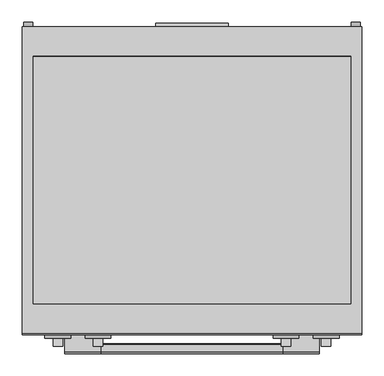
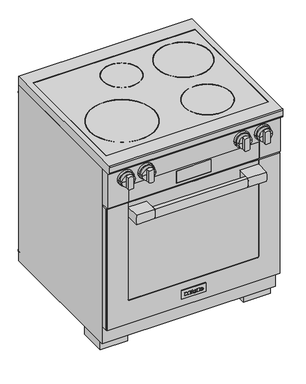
"""IFC4 building model written with IfcOpenShell, lengths in millimetres: proxy geometry, 11791520_USA_HR1622-3_EDST-CLST : 25162281_USA_11791520_HR1622-3_EDST-CLST."""

from ifc_helpers import new_model, si_unit, point, frame, frame_2d, origin, origin_with_axes, place, context, project, spatial, polyline, circle_curve, ellipse_curve, trimmed, segment, composite_curve, outline, extrude, faceted_brep, source, transform, mapped, element, save
from ifc_brep_helpers import plane_surface, cylinder_surface, revolved_surface, extruded_surface, advanced_brep


def specialty_equipment_27b714ed(model_context):
    return source(origin(), model_context, "Body", "SolidModel", [
        extrude(outline(polyline([(-351.0, -617.0), (351.0, -617.0), (351.0, -638.0), (-351.0, -638.0), (-351.0, -617.0)])), frame((0.0, 0.0, 133.0), z_axis=(0.0, 0.0, 1.0), x_axis=(1.0, 0.0, 0.0)), (0.0, 0.0, 1.0), 550.0),
        advanced_brep(
        [(287.0, -664.7, 688.0), (380.0, -664.7, 688.0), (380.0, -664.7, 127.0), (-380.0, -664.7, 127.0), (-380.0, -664.7, 688.0), (-287.0, -664.7, 688.0), (-287.0, -664.7, 687.0), (-379.0, -664.7, 687.0), (-379.0, -664.7, 128.0), (379.0, -664.7, 128.0), (379.0, -664.7, 687.0), (287.0, -664.7, 687.0), (-287.0, -670.0, 688.0), (-380.0, -670.0, 688.0), (-380.0, -670.0, 127.0), (380.0, -670.0, 127.0), (380.0, -670.0, 688.0), (287.0, -670.0, 688.0), (287.0, -670.0, 241.0), (281.0, -670.0, 235.0), (-281.0, -670.0, 235.0), (-287.0, -670.0, 241.0), (-287.0, -668.7, 241.0), (-287.0, -668.7, 687.0), (281.0, -668.7, 235.0), (-281.0, -668.7, 235.0), (287.0, -668.7, 687.0), (287.0, -668.7, 241.0), (379.0, -668.7, 687.0), (379.0, -668.7, 128.0), (-379.0, -668.7, 128.0), (-379.0, -668.7, 687.0)],
        [
            (0, 1),
            (1, 2),
            (2, 3),
            (3, 4),
            (4, 5),
            (5, 6),
            (6, 7),
            (7, 8),
            (8, 9),
            (9, 10),
            (10, 11),
            (11, 0),
            (12, 13),
            (13, 14),
            (14, 15),
            (15, 16),
            (16, 17),
            (17, 18),
            (18, 19, circle_curve(frame((281.0, -670.0, 241.0), z_axis=(0.0, 1.0, 0.0), x_axis=(-1.0, 0.0, 0.0)), 6.0)),
            (19, 20),
            (20, 21, circle_curve(frame((-281.0, -670.0, 241.0), z_axis=(0.0, 1.0, 0.0), x_axis=(-1.0, 0.0, 0.0)), 6.0)),
            (21, 12),
            (21, 22),
            (22, 23),
            (23, 6),
            (5, 12),
            (19, 24),
            (24, 25),
            (25, 20),
            (17, 0),
            (11, 26),
            (26, 27),
            (27, 18),
            (16, 1),
            (15, 2),
            (14, 3),
            (13, 4),
            (25, 22, circle_curve(frame((-281.0, -668.7, 241.0), z_axis=(0.0, 1.0, 0.0), x_axis=(-1.0, 0.0, 0.0)), 6.0)),
            (27, 24, circle_curve(frame((281.0, -668.7, 241.0), z_axis=(0.0, 1.0, 0.0), x_axis=(-1.0, 0.0, 0.0)), 6.0)),
            (28, 29),
            (29, 30),
            (30, 31),
            (31, 23),
            (26, 28),
            (28, 10),
            (9, 29),
            (8, 30),
            (7, 31),
        ],
        [
            plane_surface(frame((-287.0, -664.7, 241.0), z_axis=(0.0, 1.0, 0.0), x_axis=(0.0, 0.0, -1.0))),
            plane_surface(frame((-287.0, -670.0, 241.0), z_axis=(0.0, -1.0, 0.0), x_axis=(0.0, 0.0, 1.0))),
            plane_surface(frame((-287.0, -664.7, 688.0), z_axis=(1.0, 0.0, 0.0), x_axis=(0.0, -1.0, 0.0))),
            plane_surface(frame((-281.0, -664.7, 235.0), z_axis=(0.0, 0.0, 1.0), x_axis=(0.0, -1.0, 0.0))),
            plane_surface(frame((287.0, -664.7, 241.0), z_axis=(-1.0, 0.0, 0.0), x_axis=(0.0, -1.0, 0.0))),
            plane_surface(frame((287.0, -664.7, 688.0), z_axis=(0.0, 0.0, 1.0), x_axis=(0.0, -1.0, 0.0))),
            plane_surface(frame((380.0, -664.7, 688.0), z_axis=(1.0, 0.0, 0.0), x_axis=(0.0, -1.0, 0.0))),
            plane_surface(frame((380.0, -664.7, 127.0), z_axis=(0.0, 0.0, -1.0), x_axis=(0.0, -1.0, 0.0))),
            plane_surface(frame((-380.0, -664.7, 127.0), z_axis=(-1.0, 0.0, 0.0), x_axis=(0.0, -1.0, 0.0))),
            plane_surface(frame((-380.0, -664.7, 688.0), z_axis=(0.0, 0.0, 1.0), x_axis=(0.0, -1.0, 0.0))),
            revolved_surface(polyline([(-287.0, -670.0, 241.0), (-287.0, -668.7, 241.0)]), (-281.0, -670.0, 241.0), (0.0, -1.0, 0.0)),
            revolved_surface(polyline([(275.0, -670.0, 241.0), (275.0, -668.7, 241.0)]), (281.0, -670.0, 241.0), (0.0, -1.0, 0.0)),
            plane_surface(frame((379.0, -668.7, 687.0), z_axis=(0.0, 1.0, 0.0), x_axis=(0.0, 0.0, 1.0))),
            plane_surface(frame((379.0, -664.7, 687.0), z_axis=(-1.0, 0.0, 0.0), x_axis=(0.0, -1.0, 0.0))),
            plane_surface(frame((379.0, -664.7, 128.0), z_axis=(0.0, 0.0, 1.0), x_axis=(0.0, -1.0, 0.0))),
            plane_surface(frame((-379.0, -664.7, 128.0), z_axis=(1.0, 0.0, 0.0), x_axis=(0.0, -1.0, 0.0))),
            plane_surface(frame((-379.0, -664.7, 687.0), z_axis=(0.0, 0.0, -1.0), x_axis=(0.0, -1.0, 0.0))),
        ],
        [
            (0, [[1, 2, 3, 4, 5, 6, 7, 8, 9, 10, 11, 12]]),
            (1, [[13, 14, 15, 16, 17, 18, 19, 20, 21, 22]]),
            (2, [[-22, 23, 24, 25, -6, 26]]),
            (3, [[-20, 27, 28, 29]]),
            (4, [[-18, 30, -12, 31, 32, 33]]),
            (5, [[-1, -30, -17, 34]]),
            (6, [[-2, -34, -16, 35]]),
            (7, [[-3, -35, -15, 36]]),
            (8, [[-4, -36, -14, 37]]),
            (9, [[-5, -37, -13, -26]]),
            (10, [[-21, -29, 38, -23]]),
            (11, [[-19, -33, 39, -27]]),
            (12, [[40, 41, 42, 43, -24, -38, -28, -39, -32, 44]]),
            (13, [[-40, 45, -10, 46]]),
            (14, [[-41, -46, -9, 47]]),
            (15, [[-42, -47, -8, 48]]),
            (16, [[-45, -44, -31, -11]]),
            (16, [[-48, -7, -25, -43]]),
        ],
    ),
        extrude(outline(polyline([(-379.0, -664.7), (379.0, -664.7), (379.0, -668.7), (-379.0, -668.7), (-379.0, -664.7)])), frame((0.0, 0.0, 128.0), z_axis=(0.0, 0.0, 1.0), x_axis=(1.0, 0.0, 0.0)), (0.0, 0.0, 1.0), 559.0),
        extrude(outline(polyline([(-380.0, -638.0), (380.0, -638.0), (380.0, -664.7), (-380.0, -664.7), (-380.0, -638.0)])), frame((0.0, 0.0, 127.0), z_axis=(0.0, 0.0, 1.0), x_axis=(1.0, 0.0, 0.0)), (0.0, 0.0, 1.0), 561.0),
        extrude(outline(composite_curve([segment(polyline([(-668.7, 667.0), (-668.7, 624.0), (-731.0, 624.0)]), True, "CONTINUOUS"), segment(trimmed(circle_curve(frame_2d((-655.4583333, 645.5)), 78.5416667), [point((-731.0, 624.0))], [point((-731.0, 667.0))], False, "CARTESIAN"), True, "CONTINUOUS"), segment(polyline([(-731.0, 667.0), (-668.7, 667.0)]), True, "CONTINUOUS")], self_intersect=False)), frame((-286.0, 0.0, 0.0), z_axis=(1.0, 0.0, 0.0), x_axis=(0.0, 1.0, 0.0)), (0.0, 0.0, 1.0), 81.0),
        extrude(outline(composite_curve([segment(polyline([(-731.0, 667.0), (-668.7, 667.0), (-668.7, 624.0), (-731.0, 624.0)]), True, "CONTINUOUS"), segment(trimmed(circle_curve(frame_2d((-655.4583333, 645.5)), 78.5416667), [point((-731.0, 624.0))], [point((-731.0, 667.0))], False, "CARTESIAN"), True, "CONTINUOUS")], self_intersect=False)), frame((205.0, 0.0, 0.0), z_axis=(1.0, 0.0, 0.0), x_axis=(0.0, 1.0, 0.0)), (0.0, 0.0, 1.0), 81.0),
        extrude(outline(composite_curve([segment(polyline([(-714.0, 624.0), (-731.0, 624.0)]), True, "CONTINUOUS"), segment(trimmed(circle_curve(frame_2d((-655.4583333, 645.5)), 78.5416667), [point((-731.0, 624.0))], [point((-731.0, 667.0))], False, "CARTESIAN"), True, "CONTINUOUS"), segment(polyline([(-731.0, 667.0), (-714.0, 667.0)]), True, "CONTINUOUS"), segment(trimmed(circle_curve(frame_2d((-789.5416667, 645.5)), 78.5416667), [point((-714.0, 667.0))], [point((-714.0, 624.0))], False, "CARTESIAN"), True, "CONTINUOUS")], self_intersect=False)), frame((-205.0, 0.0, 0.0), z_axis=(1.0, 0.0, 0.0), x_axis=(0.0, 1.0, 0.0)), (0.0, 0.0, 1.0), 410.0),
        advanced_brep(
        [(381.0, 0.0, 902.0), (381.0, -688.0, 902.0), (381.0, -692.0, 898.0), (381.0, -692.0, 872.0), (381.0, -682.0, 862.0), (381.0, 0.0, 862.0), (-381.0, 0.0, 902.0), (-381.0, 0.0, 862.0), (-381.0, -682.0, 862.0), (-381.0, -692.0, 872.0), (-381.0, -692.0, 898.0), (-381.0, -688.0, 902.0), (-356.0, -66.0, 902.0), (356.0, -66.0, 902.0), (356.0, -622.0, 902.0), (-356.0, -622.0, 902.0), (356.0, -66.0, 896.4), (-356.0, -66.0, 896.4), (-356.0, -622.0, 896.4), (356.0, -622.0, 896.4)],
        [
            (0, 1),
            (1, 2, circle_curve(frame((381.0, -688.0, 898.0), z_axis=(1.0, 0.0, 0.0), x_axis=(0.0, 0.0, 1.0)), 4.0)),
            (2, 3),
            (3, 4, circle_curve(frame((381.0, -682.0, 872.0), z_axis=(1.0, 0.0, 0.0), x_axis=(0.0, 0.0, 1.0)), 10.0)),
            (4, 5),
            (5, 0),
            (6, 7),
            (7, 8),
            (8, 9, circle_curve(frame((-381.0, -682.0, 872.0), z_axis=(-1.0, 0.0, 0.0), x_axis=(0.0, 0.0, 1.0)), 10.0)),
            (9, 10),
            (10, 11, circle_curve(frame((-381.0, -688.0, 898.0), z_axis=(-1.0, 0.0, 0.0), x_axis=(0.0, 0.0, 1.0)), 4.0)),
            (11, 6),
            (0, 6),
            (11, 1),
            (12, 13),
            (13, 14),
            (14, 15),
            (15, 12),
            (10, 2),
            (9, 3),
            (8, 4),
            (7, 5),
            (16, 17),
            (17, 18),
            (18, 19),
            (19, 16),
            (16, 13),
            (12, 17),
            (15, 18),
            (14, 19),
        ],
        [
            plane_surface(frame((381.0, -688.0, 902.0), z_axis=(1.0, 0.0, 0.0), x_axis=(0.0, -1.0, 0.0))),
            plane_surface(frame((-381.0, -688.0, 902.0), z_axis=(-1.0, 0.0, 0.0), x_axis=(0.0, 1.0, 0.0))),
            plane_surface(frame((381.0, 0.0, 902.0), z_axis=(0.0, 0.0, 1.0), x_axis=(-1.0, 0.0, 0.0))),
            cylinder_surface(frame((-381.0, -688.0, 898.0), z_axis=(1.0, 0.0, 0.0), x_axis=(0.0, 0.0, 1.0)), 4.0),
            plane_surface(frame((381.0, -692.0, 898.0), z_axis=(0.0, -1.0, 0.0), x_axis=(-1.0, 0.0, 0.0))),
            cylinder_surface(frame((-381.0, -682.0, 872.0), z_axis=(1.0, 0.0, 0.0), x_axis=(0.0, 0.0, 1.0)), 10.0),
            plane_surface(frame((381.0, -682.0, 862.0), z_axis=(0.0, 0.0, -1.0), x_axis=(-1.0, 0.0, 0.0))),
            plane_surface(frame((381.0, 0.0, 862.0), z_axis=(0.0, 1.0, 0.0), x_axis=(-1.0, 0.0, 0.0))),
            plane_surface(frame((-356.0, -66.0, 896.4), z_axis=(0.0, 0.0, 1.0), x_axis=(1.0, 0.0, 0.0))),
            plane_surface(frame((356.0, -66.0, 902.0), z_axis=(0.0, -1.0, 0.0), x_axis=(0.0, 0.0, -1.0))),
            plane_surface(frame((-356.0, -66.0, 902.0), z_axis=(1.0, 0.0, 0.0), x_axis=(0.0, 0.0, -1.0))),
            plane_surface(frame((-356.0, -622.0, 902.0), z_axis=(0.0, 1.0, 0.0), x_axis=(0.0, 0.0, -1.0))),
            plane_surface(frame((356.0, -622.0, 902.0), z_axis=(-1.0, 0.0, 0.0), x_axis=(0.0, 0.0, -1.0))),
        ],
        [
            (0, [[1, 2, 3, 4, 5, 6]]),
            (1, [[7, 8, 9, 10, 11, 12]]),
            (2, [[-1, 13, -12, 14], [15, 16, 17, 18]]),
            (3, [[-2, -14, -11, 19]]),
            (4, [[-3, -19, -10, 20]]),
            (5, [[-4, -20, -9, 21]]),
            (6, [[-5, -21, -8, 22]]),
            (7, [[-6, -22, -7, -13]]),
            (8, [[23, 24, 25, 26]]),
            (9, [[-23, 27, -15, 28]]),
            (10, [[-24, -28, -18, 29]]),
            (11, [[-25, -29, -17, 30]]),
            (12, [[-26, -30, -16, -27]]),
        ],
    ),
        extrude(outline(polyline([(356.0, -66.0), (356.0, -622.0), (-356.0, -622.0), (-356.0, -66.0), (356.0, -66.0)])), frame((0.0, 0.0, 896.4), z_axis=(0.0, 0.0, 1.0), x_axis=(1.0, 0.0, 0.0)), (0.0, 0.0, 1.0), 4.0),
        extrude(outline(polyline([(356.0, -67.0), (356.0, -633.0), (-356.0, -633.0), (-356.0, -67.0), (356.0, -67.0)])), frame((0.0, 0.0, 870.0), z_axis=(0.0, 0.0, 1.0), x_axis=(1.0, 0.0, 0.0)), (0.0, 0.0, 1.0), 31.0),
        extrude(outline(composite_curve([segment(trimmed(circle_curve(frame_2d((-38.0, -189.0)), 82.0), [point((44.0, -189.0))], [point((-120.0, -189.0))], False, "CARTESIAN"), True, "CONTINUOUS"), segment(trimmed(circle_curve(frame_2d((-38.0, -189.0)), 82.0), [point((-120.0, -189.0))], [point((44.0, -189.0))], False, "CARTESIAN"), True, "CONTINUOUS")], self_intersect=False), holes=[composite_curve([segment(trimmed(circle_curve(frame_2d((-38.0, -189.0)), 80.0), [point((42.0, -189.0))], [point((-118.0, -189.0))], True, "CARTESIAN"), True, "CONTINUOUS"), segment(trimmed(circle_curve(frame_2d((-38.0, -189.0)), 80.0), [point((-118.0, -189.0))], [point((42.0, -189.0))], True, "CARTESIAN"), True, "CONTINUOUS")], self_intersect=False)]), frame((0.0, 0.0, 900.4), z_axis=(0.0, 0.0, 1.0), x_axis=(1.0, 0.0, 0.0)), (0.0, 0.0, 1.0), 1.0),
        extrude(outline(composite_curve([segment(trimmed(circle_curve(frame_2d((217.0, -218.0)), 117.0), [point((334.0, -218.0))], [point((100.0, -218.0))], False, "CARTESIAN"), True, "CONTINUOUS"), segment(trimmed(circle_curve(frame_2d((217.0, -218.0)), 117.0), [point((100.0, -218.0))], [point((334.0, -218.0))], False, "CARTESIAN"), True, "CONTINUOUS")], self_intersect=False), holes=[composite_curve([segment(trimmed(circle_curve(frame_2d((217.0, -218.0)), 115.0), [point((332.0, -218.0))], [point((102.0, -218.0))], True, "CARTESIAN"), True, "CONTINUOUS"), segment(trimmed(circle_curve(frame_2d((217.0, -218.0)), 115.0), [point((102.0, -218.0))], [point((332.0, -218.0))], True, "CARTESIAN"), True, "CONTINUOUS")], self_intersect=False)]), frame((0.0, 0.0, 900.4), z_axis=(0.0, 0.0, 1.0), x_axis=(1.0, 0.0, 0.0)), (0.0, 0.0, 1.0), 1.0),
        extrude(outline(composite_curve([segment(trimmed(circle_curve(frame_2d((165.0, -492.0)), 102.0), [point((267.0, -492.0))], [point((63.0, -492.0))], False, "CARTESIAN"), True, "CONTINUOUS"), segment(trimmed(circle_curve(frame_2d((165.0, -492.0)), 102.0), [point((63.0, -492.0))], [point((267.0, -492.0))], False, "CARTESIAN"), True, "CONTINUOUS")], self_intersect=False), holes=[composite_curve([segment(trimmed(circle_curve(frame_2d((165.0, -492.0)), 100.0), [point((265.0, -492.0))], [point((65.0, -492.0))], True, "CARTESIAN"), True, "CONTINUOUS"), segment(trimmed(circle_curve(frame_2d((165.0, -492.0)), 100.0), [point((65.0, -492.0))], [point((265.0, -492.0))], True, "CARTESIAN"), True, "CONTINUOUS")], self_intersect=False)]), frame((0.0, 0.0, 900.4), z_axis=(0.0, 0.0, 1.0), x_axis=(1.0, 0.0, 0.0)), (0.0, 0.0, 1.0), 1.0),
        extrude(outline(composite_curve([segment(trimmed(circle_curve(frame_2d((-188.0, -452.0)), 142.0), [point((-46.0, -452.0))], [point((-330.0, -452.0))], False, "CARTESIAN"), True, "CONTINUOUS"), segment(trimmed(circle_curve(frame_2d((-188.0, -452.0)), 142.0), [point((-330.0, -452.0))], [point((-46.0, -452.0))], False, "CARTESIAN"), True, "CONTINUOUS")], self_intersect=False), holes=[composite_curve([segment(trimmed(circle_curve(frame_2d((-188.0, -452.0)), 140.0), [point((-48.0, -452.0))], [point((-328.0, -452.0))], True, "CARTESIAN"), True, "CONTINUOUS"), segment(trimmed(circle_curve(frame_2d((-188.0, -452.0)), 140.0), [point((-328.0, -452.0))], [point((-48.0, -452.0))], True, "CARTESIAN"), True, "CONTINUOUS")], self_intersect=False)]), frame((0.0, 0.0, 900.4), z_axis=(0.0, 0.0, 1.0), x_axis=(1.0, 0.0, 0.0)), (0.0, 0.0, 1.0), 1.0),
        advanced_brep(
        [(301.0, -683.0, 813.0), (330.0, -683.0, 813.0), (272.0, -683.0, 813.0), (272.0, -699.0, 813.0), (330.0, -699.0, 813.0), (301.0, -699.0, 813.0)],
        [
            (0, 1),
            (1, 2, circle_curve(frame((301.0, -683.0, 813.0), z_axis=(0.0, 1.0, 0.0), x_axis=(1.0, 0.0, 0.0)), 29.0)),
            (2, 0),
            (2, 1, circle_curve(frame((301.0, -683.0, 813.0), z_axis=(0.0, 1.0, 0.0), x_axis=(1.0, 0.0, 0.0)), 29.0)),
            (3, 4, circle_curve(frame((301.0, -699.0, 813.0), z_axis=(0.0, -1.0, 0.0), x_axis=(1.0, 0.0, 0.0)), 29.0)),
            (4, 5),
            (5, 3),
            (4, 3, circle_curve(frame((301.0, -699.0, 813.0), z_axis=(0.0, -1.0, 0.0), x_axis=(1.0, 0.0, 0.0)), 29.0)),
            (1, 4),
            (3, 2),
        ],
        [
            plane_surface(frame((301.0, -683.0, 813.0), z_axis=(0.0, 1.0, 0.0), x_axis=(1.0, 0.0, 0.0))),
            plane_surface(frame((301.0, -699.0, 813.0), z_axis=(0.0, -1.0, 0.0), x_axis=(1.0, 0.0, 0.0))),
            cylinder_surface(frame((301.0, 751.3738435, 813.0), z_axis=(0.0, 1.0, 0.0), x_axis=(1.0, 0.0, 0.0)), 29.0),
        ],
        [
            (0, [[1, 2, 3]]),
            (0, [[-3, 4, -1]]),
            (1, [[5, 6, 7]]),
            (1, [[8, -7, -6]]),
            (2, [[-2, 9, -5, 10]]),
            (2, [[-4, -10, -8, -9]]),
        ],
    ),
        extrude(outline(composite_curve([segment(polyline([(786.1671843, 312.0), (839.8328157, 312.0)]), True, "CONTINUOUS"), segment(trimmed(circle_curve(frame_2d((813.0, 301.0)), 29.0), [point((839.8328157, 312.0))], [point((839.8328157, 290.0))], False, "CARTESIAN"), True, "CONTINUOUS"), segment(polyline([(839.8328157, 290.0), (786.1671843, 290.0)]), True, "CONTINUOUS"), segment(trimmed(circle_curve(frame_2d((813.0, 301.0)), 29.0), [point((786.1671843, 290.0))], [point((786.1671843, 312.0))], False, "CARTESIAN"), True, "CONTINUOUS")], self_intersect=False)), frame((0.0, -717.0, 0.0), z_axis=(0.0, 1.0, 0.0), x_axis=(0.0, 0.0, 1.0)), (0.0, 0.0, 1.0), 18.0),
        advanced_brep(
        [(211.0, -683.0, 813.0), (240.0, -683.0, 813.0), (182.0, -683.0, 813.0), (182.0, -699.0, 813.0), (240.0, -699.0, 813.0), (211.0, -699.0, 813.0)],
        [
            (0, 1),
            (1, 2, circle_curve(frame((211.0, -683.0, 813.0), z_axis=(0.0, 1.0, 0.0), x_axis=(1.0, 0.0, 0.0)), 29.0)),
            (2, 0),
            (2, 1, circle_curve(frame((211.0, -683.0, 813.0), z_axis=(0.0, 1.0, 0.0), x_axis=(1.0, 0.0, 0.0)), 29.0)),
            (3, 4, circle_curve(frame((211.0, -699.0, 813.0), z_axis=(0.0, -1.0, 0.0), x_axis=(1.0, 0.0, 0.0)), 29.0)),
            (4, 5),
            (5, 3),
            (4, 3, circle_curve(frame((211.0, -699.0, 813.0), z_axis=(0.0, -1.0, 0.0), x_axis=(1.0, 0.0, 0.0)), 29.0)),
            (1, 4),
            (3, 2),
        ],
        [
            plane_surface(frame((211.0, -683.0, 813.0), z_axis=(0.0, 1.0, 0.0), x_axis=(1.0, 0.0, 0.0))),
            plane_surface(frame((211.0, -699.0, 813.0), z_axis=(0.0, -1.0, 0.0), x_axis=(1.0, 0.0, 0.0))),
            cylinder_surface(frame((211.0, 751.3738435, 813.0), z_axis=(0.0, 1.0, 0.0), x_axis=(1.0, 0.0, 0.0)), 29.0),
        ],
        [
            (0, [[1, 2, 3]]),
            (0, [[-3, 4, -1]]),
            (1, [[5, 6, 7]]),
            (1, [[8, -7, -6]]),
            (2, [[-2, 9, -5, 10]]),
            (2, [[-4, -10, -8, -9]]),
        ],
    ),
        advanced_brep(
        [(-211.0, -683.0, 813.0), (-182.0, -683.0, 813.0), (-240.0, -683.0, 813.0), (-240.0, -699.0, 813.0), (-182.0, -699.0, 813.0), (-211.0, -699.0, 813.0)],
        [
            (0, 1),
            (1, 2, circle_curve(frame((-211.0, -683.0, 813.0), z_axis=(0.0, 1.0, 0.0), x_axis=(1.0, 0.0, 0.0)), 29.0)),
            (2, 0),
            (2, 1, circle_curve(frame((-211.0, -683.0, 813.0), z_axis=(0.0, 1.0, 0.0), x_axis=(1.0, 0.0, 0.0)), 29.0)),
            (3, 4, circle_curve(frame((-211.0, -699.0, 813.0), z_axis=(0.0, -1.0, 0.0), x_axis=(1.0, 0.0, 0.0)), 29.0)),
            (4, 5),
            (5, 3),
            (4, 3, circle_curve(frame((-211.0, -699.0, 813.0), z_axis=(0.0, -1.0, 0.0), x_axis=(1.0, 0.0, 0.0)), 29.0)),
            (1, 4),
            (3, 2),
        ],
        [
            plane_surface(frame((-211.0, -683.0, 813.0), z_axis=(0.0, 1.0, 0.0), x_axis=(1.0, 0.0, 0.0))),
            plane_surface(frame((-211.0, -699.0, 813.0), z_axis=(0.0, -1.0, 0.0), x_axis=(1.0, 0.0, 0.0))),
            cylinder_surface(frame((-211.0, 751.3738435, 813.0), z_axis=(0.0, 1.0, 0.0), x_axis=(1.0, 0.0, 0.0)), 29.0),
        ],
        [
            (0, [[1, 2, 3]]),
            (0, [[-3, 4, -1]]),
            (1, [[5, 6, 7]]),
            (1, [[8, -7, -6]]),
            (2, [[-2, 9, -5, 10]]),
            (2, [[-4, -10, -8, -9]]),
        ],
    ),
        advanced_brep(
        [(-301.0, -683.0, 813.0), (-272.0, -683.0, 813.0), (-330.0, -683.0, 813.0), (-330.0, -699.0, 813.0), (-272.0, -699.0, 813.0), (-301.0, -699.0, 813.0)],
        [
            (0, 1),
            (1, 2, circle_curve(frame((-301.0, -683.0, 813.0), z_axis=(0.0, 1.0, 0.0), x_axis=(1.0, 0.0, 0.0)), 29.0)),
            (2, 0),
            (2, 1, circle_curve(frame((-301.0, -683.0, 813.0), z_axis=(0.0, 1.0, 0.0), x_axis=(1.0, 0.0, 0.0)), 29.0)),
            (3, 4, circle_curve(frame((-301.0, -699.0, 813.0), z_axis=(0.0, -1.0, 0.0), x_axis=(1.0, 0.0, 0.0)), 29.0)),
            (4, 5),
            (5, 3),
            (4, 3, circle_curve(frame((-301.0, -699.0, 813.0), z_axis=(0.0, -1.0, 0.0), x_axis=(1.0, 0.0, 0.0)), 29.0)),
            (1, 4),
            (3, 2),
        ],
        [
            plane_surface(frame((-301.0, -683.0, 813.0), z_axis=(0.0, 1.0, 0.0), x_axis=(1.0, 0.0, 0.0))),
            plane_surface(frame((-301.0, -699.0, 813.0), z_axis=(0.0, -1.0, 0.0), x_axis=(1.0, 0.0, 0.0))),
            cylinder_surface(frame((-301.0, 751.3738435, 813.0), z_axis=(0.0, 1.0, 0.0), x_axis=(1.0, 0.0, 0.0)), 29.0),
        ],
        [
            (0, [[1, 2, 3]]),
            (0, [[-3, 4, -1]]),
            (1, [[5, 6, 7]]),
            (1, [[8, -7, -6]]),
            (2, [[-2, 9, -5, 10]]),
            (2, [[-4, -10, -8, -9]]),
        ],
    ),
        extrude(outline(composite_curve([segment(trimmed(circle_curve(frame_2d((813.0, 211.0)), 29.0), [point((786.1671843, 200.0))], [point((786.1671843, 222.0))], False, "CARTESIAN"), True, "CONTINUOUS"), segment(polyline([(786.1671843, 222.0), (839.8328157, 222.0)]), True, "CONTINUOUS"), segment(trimmed(circle_curve(frame_2d((813.0, 211.0)), 29.0), [point((839.8328157, 222.0))], [point((839.8328157, 200.0))], False, "CARTESIAN"), True, "CONTINUOUS"), segment(polyline([(839.8328157, 200.0), (786.1671843, 200.0)]), True, "CONTINUOUS")], self_intersect=False)), frame((0.0, -717.0, 0.0), z_axis=(0.0, 1.0, 0.0), x_axis=(0.0, 0.0, 1.0)), (0.0, 0.0, 1.0), 18.0),
        extrude(outline(composite_curve([segment(polyline([(839.8328157, -222.0), (786.1671843, -222.0)]), True, "CONTINUOUS"), segment(trimmed(circle_curve(frame_2d((813.0, -211.0)), 29.0), [point((786.1671843, -222.0))], [point((786.1671843, -200.0))], False, "CARTESIAN"), True, "CONTINUOUS"), segment(polyline([(786.1671843, -200.0), (839.8328157, -200.0)]), True, "CONTINUOUS"), segment(trimmed(circle_curve(frame_2d((813.0, -211.0)), 29.0), [point((839.8328157, -200.0))], [point((839.8328157, -222.0))], False, "CARTESIAN"), True, "CONTINUOUS")], self_intersect=False)), frame((0.0, -717.0, 0.0), z_axis=(0.0, 1.0, 0.0), x_axis=(0.0, 0.0, 1.0)), (0.0, 0.0, 1.0), 18.0),
        extrude(outline(composite_curve([segment(polyline([(839.8328157, -312.0), (786.1671843, -312.0)]), True, "CONTINUOUS"), segment(trimmed(circle_curve(frame_2d((813.0, -301.0)), 29.0), [point((786.1671843, -312.0))], [point((786.1671843, -290.0))], False, "CARTESIAN"), True, "CONTINUOUS"), segment(polyline([(786.1671843, -290.0), (839.8328157, -290.0)]), True, "CONTINUOUS"), segment(trimmed(circle_curve(frame_2d((813.0, -301.0)), 29.0), [point((839.8328157, -290.0))], [point((839.8328157, -312.0))], False, "CARTESIAN"), True, "CONTINUOUS")], self_intersect=False)), frame((0.0, -717.0, 0.0), z_axis=(0.0, 1.0, 0.0), x_axis=(0.0, 0.0, 1.0)), (0.0, 0.0, 1.0), 18.0),
        advanced_brep(
        [(267.7632698, -683.0, 813.0), (334.2367302, -683.0, 813.0), (301.0, -683.0, 813.0), (266.0, -673.0, 813.0), (336.0, -673.0, 813.0), (301.0, -673.0, 813.0)],
        [
            (0, 1, circle_curve(frame((301.0, -683.0, 813.0), z_axis=(0.0, -1.0, 0.0), x_axis=(1.0, 0.0, 0.0)), 33.2367302)),
            (1, 2),
            (2, 0),
            (1, 0, circle_curve(frame((301.0, -683.0, 813.0), z_axis=(0.0, -1.0, 0.0), x_axis=(1.0, 0.0, 0.0)), 33.2367302)),
            (3, 4, circle_curve(frame((301.0, -673.0, 813.0), z_axis=(0.0, -1.0, 0.0), x_axis=(1.0, 0.0, 0.0)), 35.0)),
            (4, 1),
            (0, 3),
            (4, 3, circle_curve(frame((301.0, -673.0, 813.0), z_axis=(0.0, -1.0, 0.0), x_axis=(1.0, 0.0, 0.0)), 35.0)),
            (5, 4),
            (3, 5),
        ],
        [
            plane_surface(frame((301.0, -683.0, 813.0), z_axis=(0.0, -1.0, 0.0), x_axis=(1.0, 0.0, 0.0))),
            revolved_surface(polyline([(334.2367302, -683.0, 813.0), (336.0, -673.0, 813.0)]), (301.0, 751.3738435, 813.0), (0.0, 1.0, 0.0)),
            plane_surface(frame((301.0, -673.0, 813.0), z_axis=(0.0, 1.0, 0.0), x_axis=(1.0, 0.0, 0.0))),
        ],
        [
            (0, [[1, 2, 3]]),
            (0, [[4, -3, -2]]),
            (1, [[5, 6, -1, 7]]),
            (1, [[8, -7, -4, -6]]),
            (2, [[9, -5, 10]]),
            (2, [[-10, -8, -9]]),
        ],
    ),
        advanced_brep(
        [(177.7632698, -683.0, 813.0), (244.2367302, -683.0, 813.0), (211.0, -683.0, 813.0), (176.0, -673.0, 813.0), (246.0, -673.0, 813.0), (211.0, -673.0, 813.0)],
        [
            (0, 1, circle_curve(frame((211.0, -683.0, 813.0), z_axis=(0.0, -1.0, 0.0), x_axis=(1.0, 0.0, 0.0)), 33.2367302)),
            (1, 2),
            (2, 0),
            (1, 0, circle_curve(frame((211.0, -683.0, 813.0), z_axis=(0.0, -1.0, 0.0), x_axis=(1.0, 0.0, 0.0)), 33.2367302)),
            (3, 4, circle_curve(frame((211.0, -673.0, 813.0), z_axis=(0.0, -1.0, 0.0), x_axis=(1.0, 0.0, 0.0)), 35.0)),
            (4, 1),
            (0, 3),
            (4, 3, circle_curve(frame((211.0, -673.0, 813.0), z_axis=(0.0, -1.0, 0.0), x_axis=(1.0, 0.0, 0.0)), 35.0)),
            (5, 4),
            (3, 5),
        ],
        [
            plane_surface(frame((211.0, -683.0, 813.0), z_axis=(0.0, -1.0, 0.0), x_axis=(1.0, 0.0, 0.0))),
            revolved_surface(polyline([(244.2367302, -683.0, 813.0), (246.0, -673.0, 813.0)]), (211.0, 751.3738435, 813.0), (0.0, 1.0, 0.0)),
            plane_surface(frame((211.0, -673.0, 813.0), z_axis=(0.0, 1.0, 0.0), x_axis=(1.0, 0.0, 0.0))),
        ],
        [
            (0, [[1, 2, 3]]),
            (0, [[4, -3, -2]]),
            (1, [[5, 6, -1, 7]]),
            (1, [[8, -7, -4, -6]]),
            (2, [[9, -5, 10]]),
            (2, [[-10, -8, -9]]),
        ],
    ),
        advanced_brep(
        [(-244.2367302, -683.0, 813.0), (-177.7632698, -683.0, 813.0), (-211.0, -683.0, 813.0), (-246.0, -673.0, 813.0), (-176.0, -673.0, 813.0), (-211.0, -673.0, 813.0)],
        [
            (0, 1, circle_curve(frame((-211.0, -683.0, 813.0), z_axis=(0.0, -1.0, 0.0), x_axis=(1.0, 0.0, 0.0)), 33.2367302)),
            (1, 2),
            (2, 0),
            (1, 0, circle_curve(frame((-211.0, -683.0, 813.0), z_axis=(0.0, -1.0, 0.0), x_axis=(1.0, 0.0, 0.0)), 33.2367302)),
            (3, 4, circle_curve(frame((-211.0, -673.0, 813.0), z_axis=(0.0, -1.0, 0.0), x_axis=(1.0, 0.0, 0.0)), 35.0)),
            (4, 1),
            (0, 3),
            (4, 3, circle_curve(frame((-211.0, -673.0, 813.0), z_axis=(0.0, -1.0, 0.0), x_axis=(1.0, 0.0, 0.0)), 35.0)),
            (5, 4),
            (3, 5),
        ],
        [
            plane_surface(frame((-211.0, -683.0, 813.0), z_axis=(0.0, -1.0, 0.0), x_axis=(1.0, 0.0, 0.0))),
            revolved_surface(polyline([(-177.7632698, -683.0, 813.0), (-176.0, -673.0, 813.0)]), (-211.0, 751.3738435, 813.0), (0.0, 1.0, 0.0)),
            plane_surface(frame((-211.0, -673.0, 813.0), z_axis=(0.0, 1.0, 0.0), x_axis=(1.0, 0.0, 0.0))),
        ],
        [
            (0, [[1, 2, 3]]),
            (0, [[4, -3, -2]]),
            (1, [[5, 6, -1, 7]]),
            (1, [[8, -7, -4, -6]]),
            (2, [[9, -5, 10]]),
            (2, [[-10, -8, -9]]),
        ],
    ),
        advanced_brep(
        [(-334.2367302, -683.0, 813.0), (-267.7632698, -683.0, 813.0), (-301.0, -683.0, 813.0), (-336.0, -673.0, 813.0), (-266.0, -673.0, 813.0), (-301.0, -673.0, 813.0)],
        [
            (0, 1, circle_curve(frame((-301.0, -683.0, 813.0), z_axis=(0.0, -1.0, 0.0), x_axis=(1.0, 0.0, 0.0)), 33.2367302)),
            (1, 2),
            (2, 0),
            (1, 0, circle_curve(frame((-301.0, -683.0, 813.0), z_axis=(0.0, -1.0, 0.0), x_axis=(1.0, 0.0, 0.0)), 33.2367302)),
            (3, 4, circle_curve(frame((-301.0, -673.0, 813.0), z_axis=(0.0, -1.0, 0.0), x_axis=(1.0, 0.0, 0.0)), 35.0)),
            (4, 1),
            (0, 3),
            (4, 3, circle_curve(frame((-301.0, -673.0, 813.0), z_axis=(0.0, -1.0, 0.0), x_axis=(1.0, 0.0, 0.0)), 35.0)),
            (5, 4),
            (3, 5),
        ],
        [
            plane_surface(frame((-301.0, -683.0, 813.0), z_axis=(0.0, -1.0, 0.0), x_axis=(1.0, 0.0, 0.0))),
            revolved_surface(polyline([(-267.7632698, -683.0, 813.0), (-266.0, -673.0, 813.0)]), (-301.0, 751.3738435, 813.0), (0.0, 1.0, 0.0)),
            plane_surface(frame((-301.0, -673.0, 813.0), z_axis=(0.0, 1.0, 0.0), x_axis=(1.0, 0.0, 0.0))),
        ],
        [
            (0, [[1, 2, 3]]),
            (0, [[4, -3, -2]]),
            (1, [[5, 6, -1, 7]]),
            (1, [[8, -7, -4, -6]]),
            (2, [[9, -5, 10]]),
            (2, [[-10, -8, -9]]),
        ],
    ),
        faceted_brep([(380.0, -673.0, 862.0), (-380.0, -673.0, 862.0), (-380.0, -673.0, 695.0), (-287.0, -673.0, 695.0), (-287.0, -673.0, 772.0), (287.0, -673.0, 772.0), (287.0, -673.0, 695.0), (380.0, -673.0, 695.0), (380.0, -633.0, 862.0), (380.0, -633.0, 695.0), (-380.0, -633.0, 695.0), (-380.0, -633.0, 862.0), (287.0, -666.7, 695.0), (-287.0, -666.7, 695.0), (287.0, -666.7, 772.0), (-287.0, -666.7, 772.0)], [[[0, 1, 2, 3, 4, 5, 6, 7]], [[8, 9, 10, 11]], [[0, 7, 9, 8]], [[10, 9, 7, 6, 12, 13, 3, 2]], [[2, 1, 11, 10]], [[1, 0, 8, 11]], [[14, 15, 13, 12]], [[14, 12, 6, 5]], [[13, 15, 4, 3]], [[15, 14, 5, 4]]]),
        extrude(outline(polyline([(772.0, 287.0), (772.0, -287.0), (695.0, -287.0), (695.0, 287.0), (772.0, 287.0)]), holes=[polyline([(763.0, 76.5), (707.0, 76.5), (707.0, -76.5), (763.0, -76.5), (763.0, 76.5)])]), frame((0.0, -671.7, 0.0), z_axis=(0.0, 1.0, 0.0), x_axis=(0.0, 0.0, 1.0)), (0.0, 0.0, 1.0), 5.0),
        extrude(outline(polyline([(76.5, -671.7), (-76.5, -671.7), (-76.5, -670.7), (76.5, -670.7), (76.5, -671.7)])), frame((0.0, 0.0, 707.0), z_axis=(0.0, 0.0, 1.0), x_axis=(1.0, 0.0, 0.0)), (0.0, 0.0, 1.0), 56.0),
        extrude(outline(polyline([(-254.0, -489.0), (-254.0, -609.0), (-374.0, -609.0), (-374.0, -489.0), (-254.0, -489.0)])), origin_with_axes(), (0.0, 0.0, 1.0), 45.0),
        extrude(outline(polyline([(374.0, -489.0), (374.0, -609.0), (254.0, -609.0), (254.0, -489.0), (374.0, -489.0)])), origin_with_axes(), (0.0, 0.0, 1.0), 45.0),
        extrude(outline(composite_curve([segment(trimmed(circle_curve(frame_2d((-152.0, 39.6862697)), 39.6862697), [point((-112.6710759, 45.0))], [point((-191.3289241, 45.0))], False, "CARTESIAN"), True, "CONTINUOUS"), segment(polyline([(-191.3289241, 45.0), (-112.6710759, 45.0)]), True, "CONTINUOUS")], self_intersect=False)), frame((-234.0, 0.0, 0.0), z_axis=(1.0, 0.0, 0.0), x_axis=(0.0, 1.0, 0.0)), (0.0, 0.0, 1.0), 28.0),
        extrude(outline(composite_curve([segment(trimmed(circle_curve(frame_2d((748.0, -299.0)), 7.5), [point((748.0, -291.5))], [point((748.0, -306.5))], False, "CARTESIAN"), True, "CONTINUOUS"), segment(trimmed(circle_curve(frame_2d((748.0, -299.0)), 7.5), [point((748.0, -306.5))], [point((748.0, -291.5))], False, "CARTESIAN"), True, "CONTINUOUS")], self_intersect=False)), frame((0.0, -66.0, 0.0), z_axis=(0.0, 1.0, 0.0), x_axis=(0.0, 0.0, 1.0)), (0.0, 0.0, 1.0), 30.0),
        extrude(outline(polyline([(743.0, -288.4829639), (753.0509015, -288.4829639), (753.0509015, -289.7409127), (748.1386151, -289.7409127), (753.0475587, -294.8904554), (753.0475587, -296.6455728), (748.9164775, -292.3179994), (743.0, -296.8019347), (743.0, -295.2701694), (748.0664133, -291.4304743), (746.4465471, -289.7392234), (743.0, -289.7392234), (743.0, -288.4829639)])), frame((0.0, -36.0, 0.0), z_axis=(0.0, 1.0, 0.0), x_axis=(0.0, 0.0, 1.0)), (0.0, 0.0, 1.0), 1.0),
        extrude(outline(polyline([(742.9900117, -299.5376107), (753.0405487, -296.8032463), (753.0405487, -298.1010309), (744.3952189, -300.1941056), (753.0411296, -302.6946617), (753.0411296, -304.5615338), (744.4117226, -307.0845612), (753.0419182, -309.165026), (753.0419182, -310.4626989), (742.9984871, -307.7244126), (742.9984871, -306.3735976), (751.8308623, -303.6286268), (742.9900117, -301.0716905), (742.9900117, -299.5376107)])), frame((0.0, -36.0, 0.0), z_axis=(0.0, 1.0, 0.0), x_axis=(0.0, 0.0, 1.0)), (0.0, 0.0, 1.0), 1.0),
        extrude(outline(composite_curve([segment(trimmed(circle_curve(frame_2d((225.0, -35.0)), 7.5), [point((225.0, -42.5))], [point((225.0, -27.5))], False, "CARTESIAN"), True, "CONTINUOUS"), segment(trimmed(circle_curve(frame_2d((225.0, -35.0)), 7.5), [point((225.0, -27.5))], [point((225.0, -42.5))], False, "CARTESIAN"), True, "CONTINUOUS")], self_intersect=False)), frame((0.0, 0.0, 102.0), z_axis=(0.0, 0.0, 1.0), x_axis=(1.0, 0.0, 0.0)), (0.0, 0.0, 1.0), 30.0),
        extrude(outline(polyline([(232.4261097, -39.2846028), (225.1553153, -39.2846028), (225.1553153, -38.0259878), (231.1324687, -38.0259878), (231.1324687, -35.0398896), (225.4699511, -35.0398896), (225.4699511, -33.7868997), (231.1324687, -33.7868997), (231.1324687, -30.484481), (225.0234692, -30.484481), (225.0234692, -29.223126), (232.4261097, -29.223126), (232.4261097, -39.2846028)])), frame((0.0, 0.0, 101.0), z_axis=(0.0, 0.0, 1.0), x_axis=(1.0, 0.0, 0.0)), (0.0, 0.0, 1.0), 1.0),
        extrude(outline(polyline([(223.0939455, -39.2781045), (216.9083542, -39.2781045), (216.9083542, -38.0259878), (221.9083542, -38.0259878), (221.9083542, -29.223126), (223.0939455, -29.223126), (223.0939455, -39.2781045)])), frame((0.0, 0.0, 101.0), z_axis=(0.0, 0.0, 1.0), x_axis=(1.0, 0.0, 0.0)), (0.0, 0.0, 1.0), 1.0),
        faceted_brep([(356.0, -608.0, 695.0), (-356.0, -608.0, 695.0), (-356.0, -608.0, 128.0), (356.0, -608.0, 128.0), (312.0, -608.0, 608.0), (312.0, -608.0, 185.0), (-312.0, -608.0, 185.0), (-312.0, -608.0, 608.0), (356.0, -633.0, 128.0), (356.0, -633.0, 695.0), (-356.0, -633.0, 128.0), (-356.0, -633.0, 695.0), (-381.0, 0.0, 862.0), (-381.0, -633.0, 862.0), (381.0, -633.0, 862.0), (381.0, 0.0, 862.0), (356.0, 0.0, 862.0), (356.0, -23.0, 862.0), (266.0, -23.0, 862.0), (266.0, 0.0, 862.0), (65.0, 0.0, 862.0), (65.0, -23.0, 862.0), (-66.0, -23.0, 862.0), (-66.0, 0.0, 862.0), (381.0, 0.0, 45.0), (381.0, -633.0, 45.0), (-381.0, -633.0, 45.0), (-381.0, 0.0, 45.0), (-356.0, 0.0, 45.0), (-356.0, -75.0, 45.0), (356.0, -75.0, 45.0), (356.0, 0.0, 45.0), (266.0, 0.0, 132.0), (65.0, 0.0, 132.0), (-66.0, 0.0, 132.0), (-270.0, 0.0, 132.0), (-270.0, 0.0, 784.0), (-335.0, 0.0, 784.0), (-335.0, 0.0, 132.0), (-356.0, 0.0, 132.0), (312.0, -173.0, 608.0), (-312.0, -173.0, 608.0), (-312.0, -173.0, 185.0), (312.0, -173.0, 185.0), (-356.0, -75.0, 132.0), (356.0, -75.0, 132.0), (-335.0, -66.0, 132.0), (-270.0, -66.0, 132.0), (-66.0, -23.0, 132.0), (65.0, -23.0, 132.0), (266.0, -23.0, 132.0), (356.0, -23.0, 132.0), (-335.0, -66.0, 784.0), (-270.0, -66.0, 784.0)], [[[0, 1, 2, 3], [4, 5, 6, 7]], [[0, 3, 8, 9]], [[3, 2, 10, 8]], [[2, 1, 11, 10]], [[1, 0, 9, 11]], [[12, 13, 14, 15, 16, 17, 18, 19, 20, 21, 22, 23]], [[24, 25, 26, 27, 28, 29, 30, 31]], [[20, 19, 32, 33]], [[15, 24, 31, 16]], [[27, 12, 23, 34, 35, 36, 37, 38, 39, 28]], [[13, 12, 27, 26]], [[14, 13, 26, 25], [9, 8, 10, 11]], [[15, 14, 25, 24]], [[40, 41, 42, 43]], [[40, 43, 5, 4]], [[43, 42, 6, 5]], [[42, 41, 7, 6]], [[41, 40, 4, 7]], [[44, 45, 30, 29]], [[45, 44, 39, 38, 46, 47, 35, 34, 48, 49, 33, 32, 50, 51]], [[30, 45, 51, 17, 16, 31]], [[39, 44, 29, 28]], [[52, 53, 47, 46]], [[53, 52, 37, 36]], [[53, 36, 35, 47]], [[37, 52, 46, 38]], [[17, 51, 50, 18]], [[21, 49, 48, 22]], [[49, 21, 20, 33]], [[22, 48, 34, 23]], [[18, 50, 32, 19]]]),
        extrude(outline(composite_curve([segment(trimmed(circle_curve(frame_2d((-152.0, 39.6862697)), 39.6862697), [point((-112.6710759, 45.0))], [point((-191.3289241, 45.0))], False, "CARTESIAN"), True, "CONTINUOUS"), segment(polyline([(-191.3289241, 45.0), (-112.6710759, 45.0)]), True, "CONTINUOUS")], self_intersect=False)), frame((206.0, 0.0, 0.0), z_axis=(1.0, 0.0, 0.0), x_axis=(0.0, 1.0, 0.0)), (0.0, 0.0, 1.0), 28.0),
        extrude(outline(polyline([(-81.5, 8.0), (81.5, 8.0), (81.5, 0.0), (-81.5, 0.0), (-81.5, 8.0)])), frame((0.0, 0.0, 559.0), z_axis=(0.0, 0.0, 1.0), x_axis=(1.0, 0.0, 0.0)), (0.0, 0.0, 1.0), 237.0),
        extrude(outline(composite_curve([segment(trimmed(circle_curve(frame_2d((822.0, 368.0)), 10.0), [point((822.0, 378.0))], [point((822.0, 358.0))], False, "CARTESIAN"), True, "CONTINUOUS"), segment(trimmed(circle_curve(frame_2d((822.0, 368.0)), 10.0), [point((822.0, 358.0))], [point((822.0, 378.0))], False, "CARTESIAN"), True, "CONTINUOUS")], self_intersect=False)), frame((0.0, 0.0, 0.0), z_axis=(0.0, 1.0, 0.0), x_axis=(0.0, 0.0, 1.0)), (0.0, 0.0, 1.0), 10.0),
        extrude(outline(composite_curve([segment(trimmed(circle_curve(frame_2d((87.0, 368.0)), 10.0), [point((87.0, 378.0))], [point((87.0, 358.0))], False, "CARTESIAN"), True, "CONTINUOUS"), segment(trimmed(circle_curve(frame_2d((87.0, 368.0)), 10.0), [point((87.0, 358.0))], [point((87.0, 378.0))], False, "CARTESIAN"), True, "CONTINUOUS")], self_intersect=False)), frame((0.0, 0.0, 0.0), z_axis=(0.0, 1.0, 0.0), x_axis=(0.0, 0.0, 1.0)), (0.0, 0.0, 1.0), 10.0),
        extrude(outline(composite_curve([segment(trimmed(circle_curve(frame_2d((822.0, -368.0)), 10.0), [point((822.0, -358.0))], [point((822.0, -378.0))], False, "CARTESIAN"), True, "CONTINUOUS"), segment(trimmed(circle_curve(frame_2d((822.0, -368.0)), 10.0), [point((822.0, -378.0))], [point((822.0, -358.0))], False, "CARTESIAN"), True, "CONTINUOUS")], self_intersect=False)), frame((0.0, 0.0, 0.0), z_axis=(0.0, 1.0, 0.0), x_axis=(0.0, 0.0, 1.0)), (0.0, 0.0, 1.0), 10.0),
        extrude(outline(composite_curve([segment(trimmed(circle_curve(frame_2d((87.0, -368.0)), 10.0), [point((87.0, -358.0))], [point((87.0, -378.0))], False, "CARTESIAN"), True, "CONTINUOUS"), segment(trimmed(circle_curve(frame_2d((87.0, -368.0)), 10.0), [point((87.0, -378.0))], [point((87.0, -358.0))], False, "CARTESIAN"), True, "CONTINUOUS")], self_intersect=False)), frame((0.0, 0.0, 0.0), z_axis=(0.0, 1.0, 0.0), x_axis=(0.0, 0.0, 1.0)), (0.0, 0.0, 1.0), 10.0),
        advanced_brep(
        [(32.17, -675.0, 177.1995), (32.17, -675.0, 178.563), (41.2015, -675.0, 178.563), (25.4875, -675.0, 178.563), (29.2, -675.0, 174.0), (40.972, -675.0, 177.1995), (36.895, -675.0, 177.1995), (33.682, -675.0, 175.6875), (32.17, -675.0, 180.291), (32.17, -675.0, 181.7625), (34.4785, -675.0, 181.7625), (34.4785, -675.0, 180.291), (32.17, -674.0, 177.1995), (33.682, -674.0, 175.6875), (36.895, -674.0, 177.1995), (40.972, -674.0, 177.1995), (29.2, -674.0, 174.0), (25.4875, -674.0, 178.563), (41.2015, -674.0, 178.563), (32.17, -674.0, 178.563), (32.17, -674.0, 180.291), (34.4785, -674.0, 180.291), (34.4785, -674.0, 181.7625), (32.17, -674.0, 181.7625)],
        [
            (0, 1),
            (1, 2),
            (2, 3, ellipse_curve(frame((33.3445, -675.0, 178.563), z_axis=(0.0, -1.0, 0.0), x_axis=(-1.0, 0.0, 0.0)), 7.857, 6.4935)),
            (3, 4, circle_curve(frame((30.7120736, -675.0, 179.022), z_axis=(0.0, -1.0, 0.0), x_axis=(0.0, 0.0, -1.0)), 5.2446974)),
            (4, 5, circle_curve(frame((33.1872142, -675.0, 182.586), z_axis=(0.0, -1.0, 0.0), x_axis=(0.0, 0.0, -1.0)), 9.46664)),
            (5, 6),
            (6, 7, circle_curve(frame((34.3419118, -675.0, 178.455), z_axis=(0.0, 1.0, 0.0), x_axis=(0.0, 0.0, -1.0)), 2.8450905)),
            (7, 0, circle_curve(frame((33.682, -675.0, 177.1995), z_axis=(0.0, 1.0, 0.0), x_axis=(0.0, 0.0, -1.0)), 1.512)),
            (8, 9),
            (9, 10, circle_curve(frame((33.32425, -675.0, 181.7625), z_axis=(0.0, 1.0, 0.0), x_axis=(0.0, 0.0, -1.0)), 1.15425)),
            (10, 11),
            (11, 8),
            (12, 13, circle_curve(frame((33.682, -674.0, 177.1995), z_axis=(0.0, -1.0, 0.0), x_axis=(0.0, 0.0, -1.0)), 1.512)),
            (13, 14, circle_curve(frame((34.3419118, -674.0, 178.455), z_axis=(0.0, -1.0, 0.0), x_axis=(0.0, 0.0, -1.0)), 2.8450905)),
            (14, 15),
            (15, 16, circle_curve(frame((33.1872142, -674.0, 182.586), z_axis=(0.0, 1.0, 0.0), x_axis=(0.0, 0.0, -1.0)), 9.46664)),
            (16, 17, circle_curve(frame((30.7120736, -674.0, 179.022), z_axis=(0.0, 1.0, 0.0), x_axis=(0.0, 0.0, -1.0)), 5.2446974)),
            (17, 18, ellipse_curve(frame((33.3445, -674.0, 178.563), z_axis=(0.0, 1.0, 0.0), x_axis=(-1.0, 0.0, 0.0)), 7.857, 6.4935)),
            (18, 19),
            (19, 12),
            (20, 21),
            (21, 22),
            (22, 23, circle_curve(frame((33.32425, -674.0, 181.7625), z_axis=(0.0, -1.0, 0.0), x_axis=(0.0, 0.0, -1.0)), 1.15425)),
            (23, 20),
            (0, 12),
            (19, 1),
            (18, 2),
            (5, 15),
            (14, 6),
            (17, 3),
            (13, 7),
            (16, 4),
            (8, 20),
            (23, 9),
            (22, 10),
            (21, 11),
        ],
        [
            plane_surface(frame((32.17, -675.0, 178.563), z_axis=(0.0, -1.0, 0.0), x_axis=(0.0, 0.0, 1.0))),
            plane_surface(frame((32.17, -674.0, 178.563), z_axis=(0.0, 1.0, 0.0), x_axis=(0.0, 0.0, -1.0))),
            plane_surface(frame((32.17, -675.0, 177.1995), z_axis=(1.0, 0.0, 0.0), x_axis=(0.0, 1.0, 0.0))),
            plane_surface(frame((32.17, -675.0, 178.563), z_axis=(0.0, 0.0, -1.0), x_axis=(0.0, 1.0, 0.0))),
            plane_surface(frame((40.972, -675.0, 177.1995), z_axis=(0.0, 0.0, 1.0), x_axis=(0.0, 1.0, 0.0))),
            extruded_surface(trimmed(ellipse_curve(frame((33.3445, -673.0, 178.563), z_axis=(0.0, -1.0, 0.0), x_axis=(-1.0, 0.0, 0.0)), 7.857, 6.4935), [point((41.2015, -673.0, 178.563))], [point((25.4875, -673.0, 178.563))], True, "CARTESIAN"), (0.0, -1.0, 0.0), 1.0),
            revolved_surface(polyline([(34.3419118, -674.0, 175.60990950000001), (34.3419118, -675.0, 175.60990950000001)]), (34.3419118, -674.0, 178.455), (0.0, 1.0, 0.0)),
            revolved_surface(polyline([(33.682, -674.0, 175.6875), (33.682, -675.0, 175.6875)]), (33.682, -674.0, 177.1995), (0.0, 1.0, 0.0)),
            cylinder_surface(frame((30.7120736, -674.0, 179.022), z_axis=(0.0, -1.0, 0.0), x_axis=(0.0, 0.0, -1.0)), 5.2446974),
            cylinder_surface(frame((33.1872142, -674.0, 182.586), z_axis=(0.0, -1.0, 0.0), x_axis=(0.0, 0.0, -1.0)), 9.46664),
            plane_surface(frame((32.17, -675.0, 180.291), z_axis=(1.0, 0.0, 0.0), x_axis=(0.0, 1.0, 0.0))),
            revolved_surface(polyline([(33.32425, -674.0, 180.60825), (33.32425, -675.0, 180.60825)]), (33.32425, -674.0, 181.7625), (0.0, 1.0, 0.0)),
            plane_surface(frame((34.4785, -675.0, 181.7625), z_axis=(-1.0, 0.0, 0.0), x_axis=(0.0, 1.0, 0.0))),
            plane_surface(frame((34.4785, -675.0, 180.291), z_axis=(0.0, 0.0, 1.0), x_axis=(0.0, 1.0, 0.0))),
        ],
        [
            (0, [[1, 2, 3, 4, 5, 6, 7, 8], [9, 10, 11, 12]]),
            (1, [[13, 14, 15, 16, 17, 18, 19, 20], [21, 22, 23, 24]]),
            (2, [[-1, 25, -20, 26]]),
            (3, [[-2, -26, -19, 27]]),
            (4, [[-6, 28, -15, 29]]),
            (5, [[-3, -27, -18, 30]]),
            (6, [[-7, -29, -14, 31]]),
            (7, [[-8, -31, -13, -25]]),
            (8, [[-4, -30, -17, 32]]),
            (9, [[-5, -32, -16, -28]]),
            (10, [[-9, 33, -24, 34]]),
            (11, [[-10, -34, -23, 35]]),
            (12, [[-11, -35, -22, 36]]),
            (13, [[-12, -36, -21, -33]]),
        ],
    ),
        advanced_brep(
        [(3.9955, -675.0, 177.1995), (3.9955, -675.0, 178.563), (13.027, -675.0, 178.563), (-2.687, -675.0, 178.563), (1.0255, -675.0, 174.0), (12.7975, -675.0, 177.1995), (8.7205, -675.0, 177.1995), (5.5075, -675.0, 175.6875), (3.9955, -675.0, 180.291), (3.9955, -675.0, 181.7625), (6.304, -675.0, 181.7625), (6.304, -675.0, 180.291), (3.9955, -674.0, 177.1995), (5.5075, -674.0, 175.6875), (8.7205, -674.0, 177.1995), (12.7975, -674.0, 177.1995), (1.0255, -674.0, 174.0), (-2.687, -674.0, 178.563), (13.027, -674.0, 178.563), (3.9955, -674.0, 178.563), (3.9955, -674.0, 180.291), (6.304, -674.0, 180.291), (6.304, -674.0, 181.7625), (3.9955, -674.0, 181.7625)],
        [
            (0, 1),
            (1, 2),
            (2, 3, ellipse_curve(frame((5.17, -675.0, 178.563), z_axis=(0.0, -1.0, 0.0), x_axis=(-1.0, 0.0, 0.0)), 7.857, 6.4935)),
            (3, 4, circle_curve(frame((2.5375736, -675.0, 179.022), z_axis=(0.0, -1.0, 0.0), x_axis=(0.0, 0.0, -1.0)), 5.2446974)),
            (4, 5, circle_curve(frame((5.0127142, -675.0, 182.586), z_axis=(0.0, -1.0, 0.0), x_axis=(0.0, 0.0, -1.0)), 9.46664)),
            (5, 6),
            (6, 7, circle_curve(frame((6.1674118, -675.0, 178.455), z_axis=(0.0, 1.0, 0.0), x_axis=(0.0, 0.0, -1.0)), 2.8450905)),
            (7, 0, circle_curve(frame((5.5075, -675.0, 177.1995), z_axis=(0.0, 1.0, 0.0), x_axis=(0.0, 0.0, -1.0)), 1.512)),
            (8, 9),
            (9, 10, circle_curve(frame((5.14975, -675.0, 181.7625), z_axis=(0.0, 1.0, 0.0), x_axis=(0.0, 0.0, -1.0)), 1.15425)),
            (10, 11),
            (11, 8),
            (12, 13, circle_curve(frame((5.5075, -674.0, 177.1995), z_axis=(0.0, -1.0, 0.0), x_axis=(0.0, 0.0, -1.0)), 1.512)),
            (13, 14, circle_curve(frame((6.1674118, -674.0, 178.455), z_axis=(0.0, -1.0, 0.0), x_axis=(0.0, 0.0, -1.0)), 2.8450905)),
            (14, 15),
            (15, 16, circle_curve(frame((5.0127142, -674.0, 182.586), z_axis=(0.0, 1.0, 0.0), x_axis=(0.0, 0.0, -1.0)), 9.46664)),
            (16, 17, circle_curve(frame((2.5375736, -674.0, 179.022), z_axis=(0.0, 1.0, 0.0), x_axis=(0.0, 0.0, -1.0)), 5.2446974)),
            (17, 18, ellipse_curve(frame((5.17, -674.0, 178.563), z_axis=(0.0, 1.0, 0.0), x_axis=(-1.0, 0.0, 0.0)), 7.857, 6.4935)),
            (18, 19),
            (19, 12),
            (20, 21),
            (21, 22),
            (22, 23, circle_curve(frame((5.14975, -674.0, 181.7625), z_axis=(0.0, -1.0, 0.0), x_axis=(0.0, 0.0, -1.0)), 1.15425)),
            (23, 20),
            (0, 12),
            (19, 1),
            (18, 2),
            (5, 15),
            (14, 6),
            (17, 3),
            (13, 7),
            (16, 4),
            (8, 20),
            (23, 9),
            (22, 10),
            (21, 11),
        ],
        [
            plane_surface(frame((3.9955, -675.0, 178.563), z_axis=(0.0, -1.0, 0.0), x_axis=(0.0, 0.0, 1.0))),
            plane_surface(frame((3.9955, -674.0, 178.563), z_axis=(0.0, 1.0, 0.0), x_axis=(0.0, 0.0, -1.0))),
            plane_surface(frame((3.9955, -675.0, 177.1995), z_axis=(1.0, 0.0, 0.0), x_axis=(0.0, 1.0, 0.0))),
            plane_surface(frame((3.9955, -675.0, 178.563), z_axis=(0.0, 0.0, -1.0), x_axis=(0.0, 1.0, 0.0))),
            plane_surface(frame((12.7975, -675.0, 177.1995), z_axis=(0.0, 0.0, 1.0), x_axis=(0.0, 1.0, 0.0))),
            extruded_surface(trimmed(ellipse_curve(frame((5.17, -673.0, 178.563), z_axis=(0.0, -1.0, 0.0), x_axis=(-1.0, 0.0, 0.0)), 7.857, 6.4935), [point((13.027, -673.0, 178.563))], [point((-2.687, -673.0, 178.563))], True, "CARTESIAN"), (0.0, -1.0, 0.0), 1.0),
            revolved_surface(polyline([(6.1674118, -674.0, 175.60990950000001), (6.1674118, -675.0, 175.60990950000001)]), (6.1674118, -674.0, 178.455), (0.0, 1.0, 0.0)),
            revolved_surface(polyline([(5.5075, -674.0, 175.6875), (5.5075, -675.0, 175.6875)]), (5.5075, -674.0, 177.1995), (0.0, 1.0, 0.0)),
            cylinder_surface(frame((2.5375736, -674.0, 179.022), z_axis=(0.0, -1.0, 0.0), x_axis=(0.0, 0.0, -1.0)), 5.2446974),
            cylinder_surface(frame((5.0127142, -674.0, 182.586), z_axis=(0.0, -1.0, 0.0), x_axis=(0.0, 0.0, -1.0)), 9.46664),
            plane_surface(frame((3.9955, -675.0, 180.291), z_axis=(1.0, 0.0, 0.0), x_axis=(0.0, 1.0, 0.0))),
            revolved_surface(polyline([(5.14975, -674.0, 180.60825), (5.14975, -675.0, 180.60825)]), (5.14975, -674.0, 181.7625), (0.0, 1.0, 0.0)),
            plane_surface(frame((6.304, -675.0, 181.7625), z_axis=(-1.0, 0.0, 0.0), x_axis=(0.0, 1.0, 0.0))),
            plane_surface(frame((6.304, -675.0, 180.291), z_axis=(0.0, 0.0, 1.0), x_axis=(0.0, 1.0, 0.0))),
        ],
        [
            (0, [[1, 2, 3, 4, 5, 6, 7, 8], [9, 10, 11, 12]]),
            (1, [[13, 14, 15, 16, 17, 18, 19, 20], [21, 22, 23, 24]]),
            (2, [[-1, 25, -20, 26]]),
            (3, [[-2, -26, -19, 27]]),
            (4, [[-6, 28, -15, 29]]),
            (5, [[-3, -27, -18, 30]]),
            (6, [[-7, -29, -14, 31]]),
            (7, [[-8, -31, -13, -25]]),
            (8, [[-4, -30, -17, 32]]),
            (9, [[-5, -32, -16, -28]]),
            (10, [[-9, 33, -24, 34]]),
            (11, [[-10, -34, -23, 35]]),
            (12, [[-11, -35, -22, 36]]),
            (13, [[-12, -36, -21, -33]]),
        ],
    ),
        extrude(outline(polyline([(186.7035, -10.76), (184.5165, -9.734), (186.6495, -5.1575), (188.8365, -6.17), (186.7035, -10.76)])), frame((0.0, -675.0, 0.0), z_axis=(0.0, 1.0, 0.0), x_axis=(0.0, 0.0, 1.0)), (0.0, 0.0, 1.0), 1.0),
        extrude(outline(polyline([(184.2195, -14.0945), (181.803, -14.0945), (181.803, -12.488), (176.268, -12.488), (176.268, -14.0945), (174.0, -14.0945), (174.0, -3.443), (176.268, -3.443), (176.268, -5.009), (184.2195, -5.009), (184.2195, -14.0945)])), frame((0.0, -675.0, 0.0), z_axis=(0.0, 1.0, 0.0), x_axis=(0.0, 0.0, 1.0)), (0.0, 0.0, 1.0), 1.0),
        extrude(outline(polyline([(185.2995, 13.783), (185.2995, 15.403), (176.268, 15.403), (176.268, 13.783), (174.0, 13.783), (174.0, 24.7315), (176.268, 24.7315), (176.268, 23.071), (187.5, 23.071), (187.5, 13.783), (185.2995, 13.783)])), frame((0.0, -675.0, 0.0), z_axis=(0.0, 1.0, 0.0), x_axis=(0.0, 0.0, 1.0)), (0.0, 0.0, 1.0), 1.0),
        extrude(outline(polyline([(185.2995, -41.0), (185.2995, -39.3665), (176.268, -39.3665), (176.268, -41.0), (174.0, -41.0), (174.0, -35.06), (176.268, -35.06), (176.268, -36.68), (181.9756247, -36.68), (174.0, -30.6455), (182.2527223, -24.584), (176.268, -24.584), (176.268, -26.2445), (174.0, -26.2445), (174.0, -15.4715), (176.268, -15.4715), (176.268, -17.186), (185.2995, -17.186), (185.2995, -15.4715), (187.5, -15.4715), (187.5, -23.693), (182.4375, -27.635), (187.5, -31.5905), (187.5, -41.0), (185.2995, -41.0)])), frame((0.0, -675.0, 0.0), z_axis=(0.0, 1.0, 0.0), x_axis=(0.0, 0.0, 1.0)), (0.0, 0.0, 1.0), 1.0),
        extrude(outline(composite_curve([segment(polyline([(-670.0, 160.0), (-673.5, 160.0)]), True, "CONTINUOUS"), segment(trimmed(circle_curve(frame_2d((-464.0137328, 180.5)), 210.4869263), [point((-673.5, 160.0))], [point((-673.5, 201.0))], False, "CARTESIAN"), True, "CONTINUOUS"), segment(polyline([(-673.5, 201.0), (-670.0, 201.0), (-670.0, 160.0)]), True, "CONTINUOUS")], self_intersect=False)), frame((-53.5, 0.0, 0.0), z_axis=(1.0, 0.0, 0.0), x_axis=(0.0, 1.0, 0.0)), (0.0, 0.0, 1.0), 107.0),
    ])


if __name__ == "__main__":
    model = new_model("IFC4")
    model_context = context("Model", 3, world=origin())
    ifc_project = project(units=[si_unit("LENGTHUNIT", "METRE", prefix="MILLI")], contexts=[model_context])
    site = spatial("IfcSite", under=ifc_project)
    building = spatial("IfcBuilding", under=site)
    placement = place(None, origin())
    specialty_equipment_shape = specialty_equipment_27b714ed(model_context)
    element("IfcBuildingElementProxy", 1, Name="11791520_USA_HR1622-3_EDST-CLST : 25162281_USA_11791520_HR1622-3_EDST-CLST", ObjectType="11791520_USA_HR1622-3_EDST-CLST : 25162281_USA_11791520_HR1622-3_EDST-CLST", at=placement, inside=building, context=model_context, shape_type="MappedRepresentation", body=[
        mapped(specialty_equipment_shape, transform((0.0, 0.0, 0.0), x_axis=(1.0, 0.0, 0.0), y_axis=(0.0, 1.0, 0.0), z_axis=(0.0, 0.0, 1.0))),
    ])
    save(model, "model.ifc")
